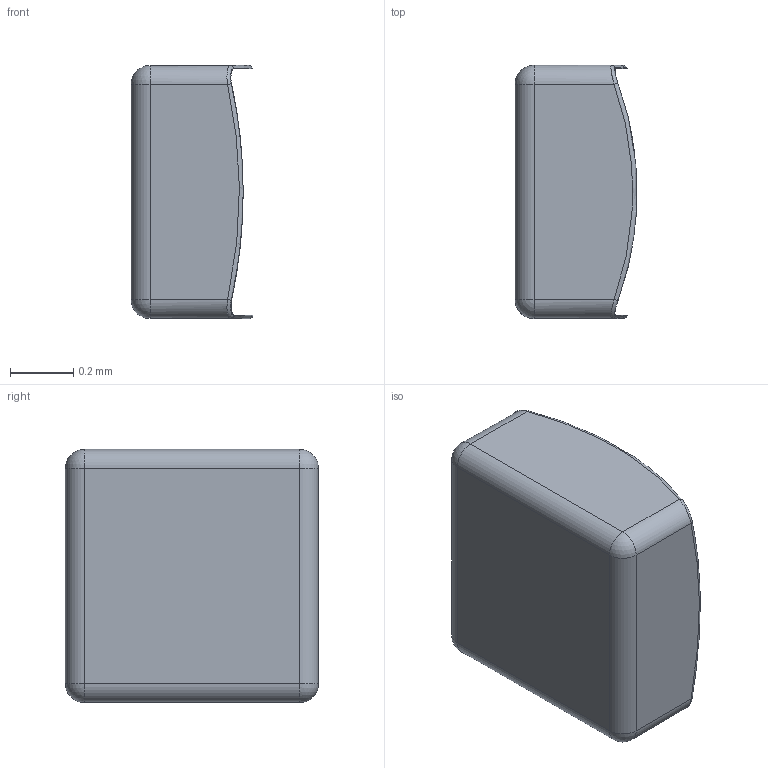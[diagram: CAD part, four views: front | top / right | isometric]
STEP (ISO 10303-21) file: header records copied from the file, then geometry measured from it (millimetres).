
FILE_DESCRIPTION(/* description */ ('STEP AP242 Edition 2','CAx-IF Rec.Pracs.---Representation and Presentation of Product Manufacturing Information (PMI)---4.0---2014-10-13','CAx-IF Rec.Pracs.---3D Tessellated Geometry---0.4---2014-09-14','2;1','CAx-IF Rec.Pracs.---User Defined Attributes---1.5---2016-08-15'),/* implementation_level */ '2;1');
FILE_NAME(/* name */ 'Drone Layout - Surface 400',/* time_stamp */ '2026-10-04T22:22:59Z',/* author */ (''),/* organization */ (''),/* preprocessor_version */ 'ST-DEVELOPER v20',/* originating_system */ 'ONSHAPE BY PTC INC, 1.221',/* authorisation */ ' ');
FILE_SCHEMA (('AP242_MANAGED_MODEL_BASED_3D_ENGINEERING_MIM_LF { 1 0 10303 442 3 1 4 }'));
Length unit declared in the file: metre
Products named in the file (1): Pin1 (1):1__Body1
Bounding box: 0.39 x 0.8 x 0.8 mm (x, y, z)
Volume: 0.1 mm3; surface area: 3 mm2
Topology: 1 solids, 1 shells, 37 faces, 93 edges, 54 vertices
Faces by surface type: cylinder 13, plane 10, torus 9, sphere 5
Entity records: 1108 total; most frequent: CARTESIAN_POINT 310, ORIENTED_EDGE 178, DIRECTION 139, EDGE_CURVE 89, AXIS2_PLACEMENT_3D 55, VERTEX_POINT 54, B_SPLINE_CURVE_WITH_KNOTS 43, EDGE_LOOP 37
